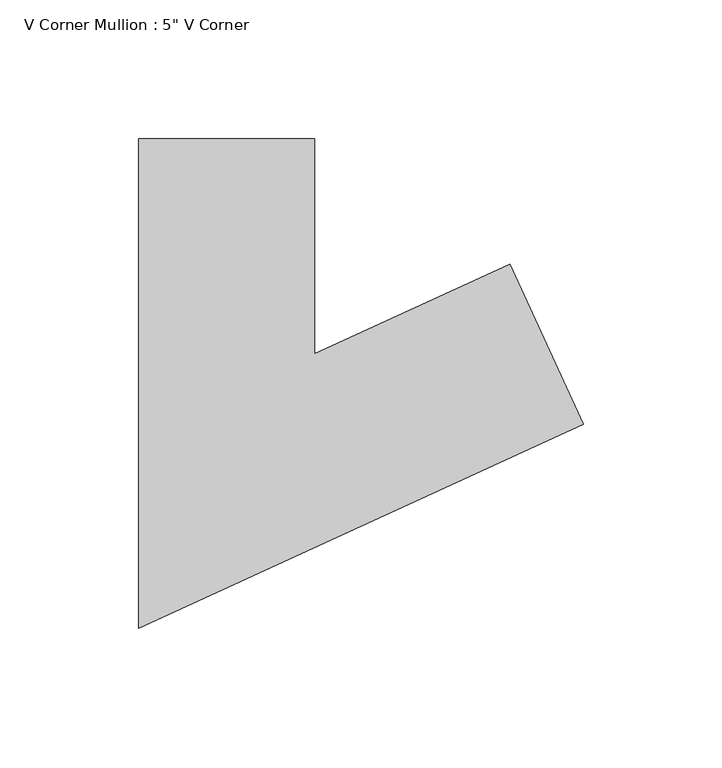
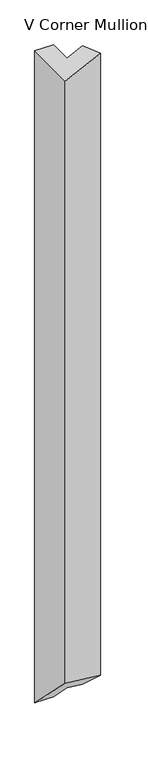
"""IFC4 building model written with IfcOpenShell, lengths in millimetres: member geometry."""

from ifc_helpers import new_model, si_unit, origin, place, context, project, spatial, faceted_brep, source, transform, mapped, element, save


def member_a3f5faf8(model_context):
    return source(origin(), model_context, "Body", "Brep", [
        faceted_brep([(61.49523, 18.2208415, -0.9204947), (87.9205542, -39.5195451, -1.3160435), (87.9205542, -39.5195451, -2199.2864289), (61.49523, 18.2208415, -2257.0268155), (-9.0228811, -14.0523047, 0.1350595), (-9.0228811, -14.0523047, -2224.7536692), (-9.0228811, 63.5, 0.1350595), (-9.0228811, 63.5, -2302.305974), (-72.5228811, 63.5, 1.0855626), (-72.5228811, 63.5, -2302.305974), (-72.5228811, -112.9476953, 1.0855626), (-72.5228811, -112.9476953, -2125.8582787)], [[[0, 1, 2, 3]], [[4, 0, 3, 5]], [[6, 4, 5, 7]], [[8, 6, 7, 9]], [[10, 8, 9, 11]], [[1, 10, 11, 2]], [[1, 0, 4, 6, 8, 10]], [[2, 11, 9, 7, 5, 3]]]),
    ])


if __name__ == "__main__":
    model = new_model("IFC4")
    model_context = context("Model", 3, world=origin())
    ifc_project = project(units=[si_unit("LENGTHUNIT", "METRE", prefix="MILLI")], contexts=[model_context])
    site = spatial("IfcSite", under=ifc_project)
    building = spatial("IfcBuilding", under=site)
    placement = place(None, origin())
    member_shape = member_a3f5faf8(model_context)
    element("IfcMember", 1, ObjectType="V Corner Mullion : 5\" V Corner", at=placement, inside=building, context=model_context, shape_type="MappedRepresentation", body=[
        mapped(member_shape, transform((0.0, 0.0, 0.0), x_axis=(1.0, 0.0, 0.0), y_axis=(0.0, 1.0, 0.0), z_axis=(0.0, 0.0, 1.0))),
    ])
    save(model, "model.ifc")
